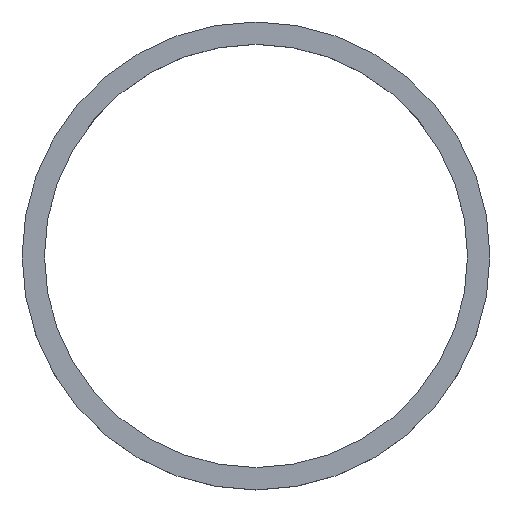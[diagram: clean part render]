
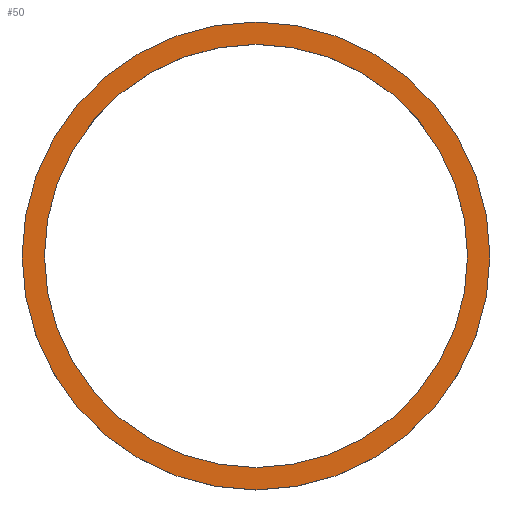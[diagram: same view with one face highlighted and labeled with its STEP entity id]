
A CAD part, top view. The second image highlights one B-rep face of the part: STEP entity #50.
In plain terms, the highlighted planar face has unit normal (0, 0, 1).
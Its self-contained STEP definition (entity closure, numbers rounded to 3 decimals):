
#21 = EDGE_CURVE('',#22,#22,#24,.T.);
#22 = VERTEX_POINT('',#23);
#23 = CARTESIAN_POINT('',(33.5,16.75,3.8));
#24 = CIRCLE('',#25,16.75);
#25 = AXIS2_PLACEMENT_3D('',#26,#27,#28);
#26 = CARTESIAN_POINT('',(16.75,16.75,3.8));
#27 = DIRECTION('',(0.,0.,1.));
#28 = DIRECTION('',(1.,0.,0.));
#50 = ADVANCED_FACE('',(#51,#54),#65,.T.);
#51 = FACE_BOUND('',#52,.T.);
#52 = EDGE_LOOP('',(#53));
#53 = ORIENTED_EDGE('',*,*,#21,.T.);
#54 = FACE_BOUND('',#55,.T.);
#55 = EDGE_LOOP('',(#56));
#56 = ORIENTED_EDGE('',*,*,#57,.F.);
#57 = EDGE_CURVE('',#58,#58,#60,.T.);
#58 = VERTEX_POINT('',#59);
#59 = CARTESIAN_POINT('',(31.9,16.75,3.8));
#60 = CIRCLE('',#61,15.15);
#61 = AXIS2_PLACEMENT_3D('',#62,#63,#64);
#62 = CARTESIAN_POINT('',(16.75,16.75,3.8));
#63 = DIRECTION('',(0.,0.,1.));
#64 = DIRECTION('',(1.,0.,0.));
#65 = PLANE('',#66);
#66 = AXIS2_PLACEMENT_3D('',#67,#68,#69);
#67 = CARTESIAN_POINT('',(16.75,16.75,3.8));
#68 = DIRECTION('',(0.,0.,1.));
#69 = DIRECTION('',(1.,0.,0.));
